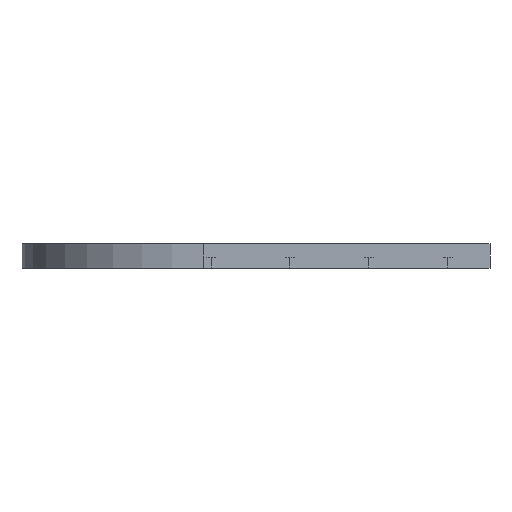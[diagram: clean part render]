
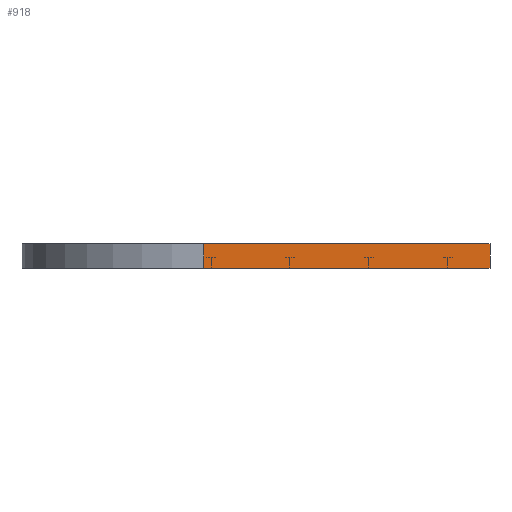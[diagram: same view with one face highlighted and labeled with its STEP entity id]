
A CAD part, left-side view. The second image highlights one B-rep face of the part: STEP entity #918.
In plain terms, the highlighted planar face has unit normal (-1, 0, 0).
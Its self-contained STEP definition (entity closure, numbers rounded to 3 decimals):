
#99 = DIRECTION ( 'NONE',  ( 0., -1., 0. ) ) ;
#130 = ORIENTED_EDGE ( 'NONE', *, *, #6063, .T. ) ;
#183 = CARTESIAN_POINT ( 'NONE',  ( 0., 0., 20. ) ) ;
#366 = CARTESIAN_POINT ( 'NONE',  ( 0., 0., 20. ) ) ;
#395 = CARTESIAN_POINT ( 'NONE',  ( 0., 0., 0. ) ) ;
#431 = LINE ( 'NONE', #395, #4316 ) ;
#659 = VERTEX_POINT ( 'NONE', #183 ) ;
#666 = ORIENTED_EDGE ( 'NONE', *, *, #3386, .T. ) ;
#750 = DIRECTION ( 'NONE',  ( 1., 0., 0. ) ) ;
#777 = FACE_OUTER_BOUND ( 'NONE', #4525, .T. ) ;
#808 = DIRECTION ( 'NONE',  ( 0., 0., -1. ) ) ;
#899 = DIRECTION ( 'NONE',  ( 0., -1., 0. ) ) ;
#918 = ADVANCED_FACE ( 'NONE', ( #777 ), #1758, .F. ) ;
#1131 = CARTESIAN_POINT ( 'NONE',  ( 0., 236., 20. ) ) ;
#1220 = ORIENTED_EDGE ( 'NONE', *, *, #5423, .F. ) ;
#1758 = PLANE ( 'NONE',  #5214 ) ;
#2110 = VECTOR ( 'NONE', #4995, 1000. ) ;
#2389 = VERTEX_POINT ( 'NONE', #2592 ) ;
#2533 = VERTEX_POINT ( 'NONE', #5873 ) ;
#2592 = CARTESIAN_POINT ( 'NONE',  ( 0., 0., 0. ) ) ;
#2902 = VERTEX_POINT ( 'NONE', #5963 ) ;
#3014 = CARTESIAN_POINT ( 'NONE',  ( 0., 0., 20. ) ) ;
#3386 = EDGE_CURVE ( 'NONE', #2902, #2533, #5060, .T. ) ;
#3820 = VECTOR ( 'NONE', #808, 1000. ) ;
#4092 = LINE ( 'NONE', #5140, #3820 ) ;
#4316 = VECTOR ( 'NONE', #899, 1000. ) ;
#4525 = EDGE_LOOP ( 'NONE', ( #1220, #666, #130, #5988 ) ) ;
#4872 = LINE ( 'NONE', #3014, #5882 ) ;
#4995 = DIRECTION ( 'NONE',  ( 0., 0., -1. ) ) ;
#5060 = LINE ( 'NONE', #1131, #2110 ) ;
#5140 = CARTESIAN_POINT ( 'NONE',  ( 0., 0., 20. ) ) ;
#5214 = AXIS2_PLACEMENT_3D ( 'NONE', #366, #750, #6038 ) ;
#5423 = EDGE_CURVE ( 'NONE', #2902, #659, #4872, .T. ) ;
#5873 = CARTESIAN_POINT ( 'NONE',  ( 0., 236., 0. ) ) ;
#5882 = VECTOR ( 'NONE', #99, 1000. ) ;
#5963 = CARTESIAN_POINT ( 'NONE',  ( 0., 236., 20. ) ) ;
#5988 = ORIENTED_EDGE ( 'NONE', *, *, #6021, .F. ) ;
#6021 = EDGE_CURVE ( 'NONE', #659, #2389, #4092, .T. ) ;
#6038 = DIRECTION ( 'NONE',  ( 0., 0., -1. ) ) ;
#6063 = EDGE_CURVE ( 'NONE', #2533, #2389, #431, .T. ) ;
